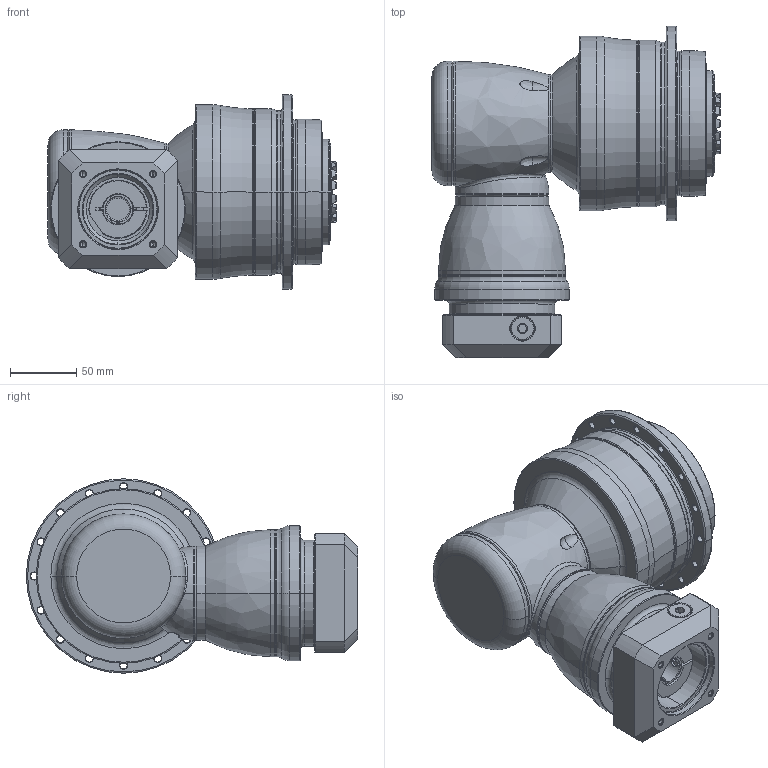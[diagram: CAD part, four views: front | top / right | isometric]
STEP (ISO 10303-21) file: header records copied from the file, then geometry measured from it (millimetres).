
FILE_DESCRIPTION((''),'2;1');
FILE_NAME('APCK110_3ST_19-P0409400201_ASM','2018-05-11T',('d01226'),(''),'PRO/ENGINEER BY PARAMETRIC TECHNOLOGY CORPORATION, 2008410','PRO/ENGINEER BY PARAMETRIC TECHNOLOGY CORPORATION, 2008410','');
FILE_SCHEMA(('CONFIG_CONTROL_DESIGN'));
Length unit declared in the file: millimetre
Products named in the file (13): P1008300002; P1832400001; P0278401003; P03594C0103; P1211400001; P1315300001; P1007301001; P1318310201; P0409400201; P0503400006; P0129302001; 21711412017; APCK110_3ST_19-P0409400201_ASM
Assembly tree (12 placements, depth 2):
  APCK110_3ST_19-P0409400201_ASM
    P1008300002
    P1832400001
    P0278401003
    P03594C0103
    P1211400001
    P1315300001
    P1007301001
    P1318310201
    P0409400201
    P0503400006
    P0129302001
    21711412017
Bounding box: 217.9 x 250.5 x 147 mm (x, y, z)
Volume: 2654050 mm3; surface area: 341187.6 mm2
Topology: 13 solids, 23 shells, 677 faces, 1589 edges, 966 vertices
Faces by surface type: cylinder 213, cone 188, plane 131, torus 114, bspline 29, sphere 2
Entity records: 23467 total; most frequent: CARTESIAN_POINT 7566, DIRECTION 3572, ORIENTED_EDGE 3084, AXIS2_PLACEMENT_3D 1570, EDGE_CURVE 1563, VERTEX_POINT 960, CIRCLE 887, EDGE_LOOP 771
